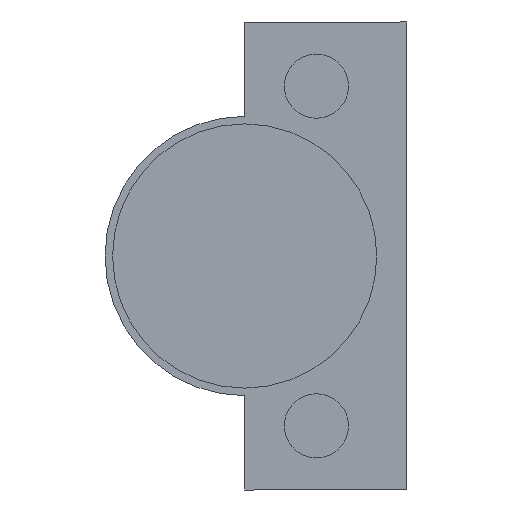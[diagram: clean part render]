
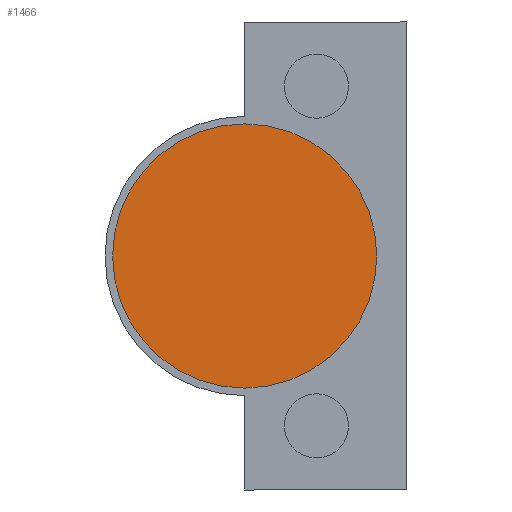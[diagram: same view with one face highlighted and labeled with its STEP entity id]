
A CAD part, front view. The second image highlights one B-rep face of the part: STEP entity #1466.
In plain terms, the highlighted planar face has unit normal (0, -1, 0).
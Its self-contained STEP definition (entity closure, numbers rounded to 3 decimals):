
#229 = EDGE_CURVE ( 'NONE', #444, #445, #1308, .T. ) ;
#297 = AXIS2_PLACEMENT_3D ( 'NONE', #766, #762, #763 ) ;
#302 = AXIS2_PLACEMENT_3D ( 'NONE', #893, #890, #891 ) ;
#347 = AXIS2_PLACEMENT_3D ( 'NONE', #570, #569, #568 ) ;
#389 = EDGE_CURVE ( 'NONE', #445, #444, #1616, .T. ) ;
#444 = VERTEX_POINT ( 'NONE', #867 ) ;
#445 = VERTEX_POINT ( 'NONE', #868 ) ;
#568 = DIRECTION ( 'NONE',  ( 1., 0., 0. ) ) ;
#569 = DIRECTION ( 'NONE',  ( 0., -1., 0. ) ) ;
#570 = CARTESIAN_POINT ( 'NONE',  ( 5.5, -12.6, 0. ) ) ;
#762 = DIRECTION ( 'NONE',  ( 0., -1., 0. ) ) ;
#763 = DIRECTION ( 'NONE',  ( 1., 0., 0. ) ) ;
#766 = CARTESIAN_POINT ( 'NONE',  ( 5.5, -12.6, 0. ) ) ;
#826 = PLANE ( 'NONE',  #302 ) ;
#867 = CARTESIAN_POINT ( 'NONE',  ( 23., -12.6, 0. ) ) ;
#868 = CARTESIAN_POINT ( 'NONE',  ( -12., -12.6, 0. ) ) ;
#890 = DIRECTION ( 'NONE',  ( 0., -1., 0. ) ) ;
#891 = DIRECTION ( 'NONE',  ( 1., 0., 0. ) ) ;
#893 = CARTESIAN_POINT ( 'NONE',  ( 5.5, -12.6, 0. ) ) ;
#1199 = EDGE_LOOP ( 'NONE', ( #1213, #1232 ) ) ;
#1213 = ORIENTED_EDGE ( 'NONE', *, *, #389, .T. ) ;
#1232 = ORIENTED_EDGE ( 'NONE', *, *, #229, .T. ) ;
#1308 = CIRCLE ( 'NONE', #347, 17.5 ) ;
#1466 = ADVANCED_FACE ( 'NONE', ( #1531 ), #826, .T. ) ;
#1531 = FACE_OUTER_BOUND ( 'NONE', #1199, .T. ) ;
#1616 = CIRCLE ( 'NONE', #297, 17.5 ) ;
